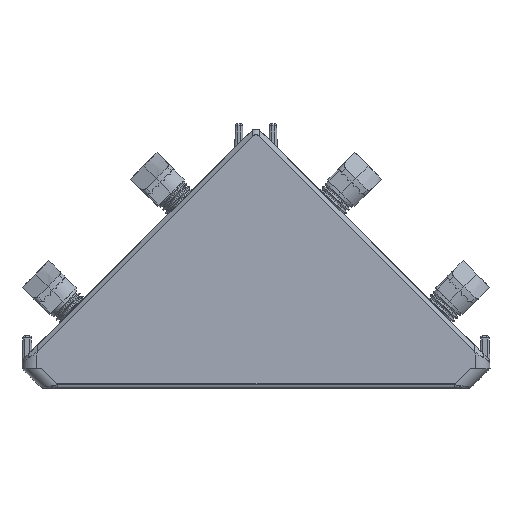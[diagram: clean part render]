
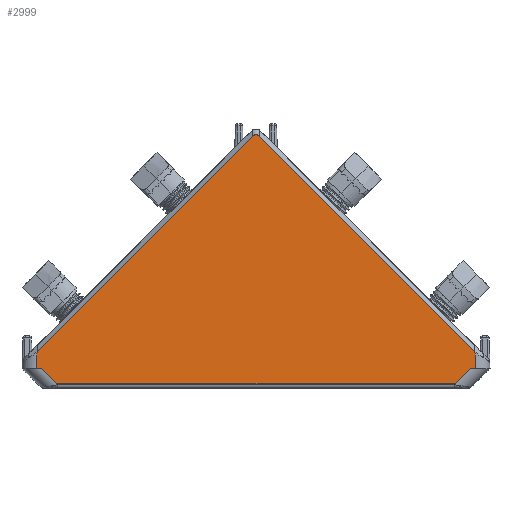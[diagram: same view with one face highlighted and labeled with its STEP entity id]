
A CAD part, left-side view. The second image highlights one B-rep face of the part: STEP entity #2999.
In plain terms, the highlighted planar face has unit normal (-1, 0, 0.004).
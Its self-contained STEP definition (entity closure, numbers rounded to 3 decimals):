
#43 = CARTESIAN_POINT ( 'NONE',  ( 42.262, 346.478, -36.089 ) ) ;
#300 = DIRECTION ( 'NONE',  ( 0.003, 0.707, 0.707 ) ) ;
#325 = EDGE_CURVE ( 'NONE', #32337, #2273, #29130, .T. ) ;
#373 = LINE ( 'NONE', #26555, #21413 ) ;
#419 = CARTESIAN_POINT ( 'NONE',  ( 42.23, 341.966, -39.51 ) ) ;
#1574 = CARTESIAN_POINT ( 'NONE',  ( 42.236, 247.224, -38.21 ) ) ;
#1693 = CARTESIAN_POINT ( 'NONE',  ( 42.245, 346.378, -36.089 ) ) ;
#1989 = VERTEX_POINT ( 'NONE', #34061 ) ;
#2003 = LINE ( 'NONE', #20241, #17779 ) ;
#2273 = VERTEX_POINT ( 'NONE', #419 ) ;
#2332 = CARTESIAN_POINT ( 'NONE',  ( 42.262, 346.379, -32.277 ) ) ;
#2710 = CARTESIAN_POINT ( 'NONE',  ( 42.23, 296.879, -39.51 ) ) ;
#2955 = DIRECTION ( 'NONE',  ( 0., 1., 0. ) ) ;
#2999 = ADVANCED_FACE ( 'NONE', ( #29395 ), #26482, .T. ) ;
#3053 = DIRECTION ( 'NONE',  ( -1., 0., 0.004 ) ) ;
#3126 = CARTESIAN_POINT ( 'NONE',  ( 42.262, 247.38, -32.277 ) ) ;
#3403 = B_SPLINE_CURVE_WITH_KNOTS ( 'NONE', 3,
 ( #12211, #4816, #17539, #1693 ),
 .UNSPECIFIED., .F., .F.,
 ( 4, 4 ),
 ( 0., 1. ),
 .UNSPECIFIED. ) ;
#3641 = CARTESIAN_POINT ( 'NONE',  ( 42.132, 274.335, -62.053 ) ) ;
#3931 = DIRECTION ( 'NONE',  ( -0.004, 0.026, -1. ) ) ;
#4122 = VECTOR ( 'NONE', #3931, 1000. ) ;
#4193 = CARTESIAN_POINT ( 'NONE',  ( 42.132, 319.423, -62.053 ) ) ;
#4480 = CARTESIAN_POINT ( 'NONE',  ( 42.262, 247.28, -36.089 ) ) ;
#4816 = CARTESIAN_POINT ( 'NONE',  ( 42.245, 346.445, -36.089 ) ) ;
#4900 = CARTESIAN_POINT ( 'NONE',  ( 42.476, 297.154, 16.958 ) ) ;
#5125 = VERTEX_POINT ( 'NONE', #23515 ) ;
#5471 = VERTEX_POINT ( 'NONE', #43 ) ;
#5534 = CARTESIAN_POINT ( 'NONE',  ( 42.23, 296.879, -39.51 ) ) ;
#5596 = VERTEX_POINT ( 'NONE', #3126 ) ;
#5716 = VECTOR ( 'NONE', #14395, 1000. ) ;
#6183 = LINE ( 'NONE', #16686, #4122 ) ;
#6260 = ORIENTED_EDGE ( 'NONE', *, *, #31623, .T. ) ;
#6394 = EDGE_CURVE ( 'NONE', #15335, #17257, #9597, .T. ) ;
#7000 = DIRECTION ( 'NONE',  ( -0.004, 0.026, -1. ) ) ;
#7006 = CARTESIAN_POINT ( 'NONE',  ( 42.245, 296.879, -36.089 ) ) ;
#7739 = DIRECTION ( 'NONE',  ( 0., -1., 0. ) ) ;
#8010 = EDGE_CURVE ( 'NONE', #19459, #17980, #10490, .T. ) ;
#8216 = CARTESIAN_POINT ( 'NONE',  ( 42.354, 268.508, -11.14 ) ) ;
#9301 = VERTEX_POINT ( 'NONE', #19965 ) ;
#9597 = LINE ( 'NONE', #7006, #5716 ) ;
#10066 = ORIENTED_EDGE ( 'NONE', *, *, #32835, .T. ) ;
#10410 = CARTESIAN_POINT ( 'NONE',  ( 42.474, 296.129, 16.482 ) ) ;
#10421 = VECTOR ( 'NONE', #24982, 1000. ) ;
#10490 = LINE ( 'NONE', #15978, #24919 ) ;
#11833 = VERTEX_POINT ( 'NONE', #25340 ) ;
#12088 = DIRECTION ( 'NONE',  ( -0.004, -0.026, -1. ) ) ;
#12132 =( BOUNDED_CURVE ( )  B_SPLINE_CURVE ( 3, ( #10410, #26254, #4900, #23331 ),
 .UNSPECIFIED., .F., .F. ) 
 B_SPLINE_CURVE_WITH_KNOTS ( ( 4, 4 ),
 ( 5.76, 6.807 ),
 .UNSPECIFIED. ) 
 CURVE ( )  GEOMETRIC_REPRESENTATION_ITEM ( )  RATIONAL_B_SPLINE_CURVE ( ( 1., 0.911, 0.911, 1. ) ) 
 REPRESENTATION_ITEM ( '' )  );
#12211 = CARTESIAN_POINT ( 'NONE',  ( 42.262, 346.478, -36.089 ) ) ;
#12271 = LINE ( 'NONE', #1574, #24297 ) ;
#13502 = CARTESIAN_POINT ( 'NONE',  ( 42.354, 325.251, -11.14 ) ) ;
#13904 = EDGE_CURVE ( 'NONE', #5471, #19459, #3403, .T. ) ;
#14008 = LINE ( 'NONE', #13502, #29120 ) ;
#14124 = ORIENTED_EDGE ( 'NONE', *, *, #26753, .T. ) ;
#14278 = CARTESIAN_POINT ( 'NONE',  ( 42.256, 247.313, -36.089 ) ) ;
#14395 = DIRECTION ( 'NONE',  ( 0., 1., 0. ) ) ;
#14454 = CARTESIAN_POINT ( 'NONE',  ( 42.25, 247.347, -36.089 ) ) ;
#14629 = CARTESIAN_POINT ( 'NONE',  ( 42.245, 247.38, -36.089 ) ) ;
#15335 = VERTEX_POINT ( 'NONE', #24709 ) ;
#15634 = LINE ( 'NONE', #8216, #23784 ) ;
#15978 = CARTESIAN_POINT ( 'NONE',  ( 42.245, 296.879, -36.089 ) ) ;
#16207 = CARTESIAN_POINT ( 'NONE',  ( 42.245, 248.372, -36.089 ) ) ;
#16686 = CARTESIAN_POINT ( 'NONE',  ( 42.236, 346.534, -38.21 ) ) ;
#17257 = VERTEX_POINT ( 'NONE', #16207 ) ;
#17539 = CARTESIAN_POINT ( 'NONE',  ( 42.245, 346.411, -36.089 ) ) ;
#17779 = VECTOR ( 'NONE', #7000, 1000. ) ;
#17980 = VERTEX_POINT ( 'NONE', #32286 ) ;
#18024 = ORIENTED_EDGE ( 'NONE', *, *, #325, .F. ) ;
#18184 = ORIENTED_EDGE ( 'NONE', *, *, #6394, .F. ) ;
#18883 = EDGE_CURVE ( 'NONE', #30819, #5471, #6183, .T. ) ;
#19459 = VERTEX_POINT ( 'NONE', #21187 ) ;
#19686 = DIRECTION ( 'NONE',  ( 0.003, 0.707, 0.707 ) ) ;
#19794 = ORIENTED_EDGE ( 'NONE', *, *, #32196, .T. ) ;
#19965 = CARTESIAN_POINT ( 'NONE',  ( 42.474, 297.629, 16.482 ) ) ;
#20090 = CARTESIAN_POINT ( 'NONE',  ( 42.262, 247.38, -32.268 ) ) ;
#20241 = CARTESIAN_POINT ( 'NONE',  ( 42.262, 346.379, -32.277 ) ) ;
#20990 = VERTEX_POINT ( 'NONE', #20090 ) ;
#21187 = CARTESIAN_POINT ( 'NONE',  ( 42.245, 346.378, -36.089 ) ) ;
#21385 = ORIENTED_EDGE ( 'NONE', *, *, #18883, .T. ) ;
#21411 = DIRECTION ( 'NONE',  ( -0.003, 0.707, -0.707 ) ) ;
#21413 = VECTOR ( 'NONE', #24481, 1000. ) ;
#23331 = CARTESIAN_POINT ( 'NONE',  ( 42.474, 297.629, 16.482 ) ) ;
#23515 = CARTESIAN_POINT ( 'NONE',  ( 42.262, 346.378, -32.268 ) ) ;
#23784 = VECTOR ( 'NONE', #300, 1000. ) ;
#24297 = VECTOR ( 'NONE', #12088, 1000. ) ;
#24452 = ORIENTED_EDGE ( 'NONE', *, *, #13904, .T. ) ;
#24481 = DIRECTION ( 'NONE',  ( 0.004, 0.026, 1. ) ) ;
#24709 = CARTESIAN_POINT ( 'NONE',  ( 42.245, 247.38, -36.089 ) ) ;
#24919 = VECTOR ( 'NONE', #7739, 1000. ) ;
#24982 = DIRECTION ( 'NONE',  ( 0.003, -0.707, 0.707 ) ) ;
#25002 = ORIENTED_EDGE ( 'NONE', *, *, #32034, .T. ) ;
#25340 = CARTESIAN_POINT ( 'NONE',  ( 42.262, 247.28, -36.089 ) ) ;
#26254 = CARTESIAN_POINT ( 'NONE',  ( 42.476, 296.605, 16.958 ) ) ;
#26482 = PLANE ( 'NONE',  #27604 ) ;
#26555 = CARTESIAN_POINT ( 'NONE',  ( 42.262, 247.38, -32.277 ) ) ;
#26753 = EDGE_CURVE ( 'NONE', #1989, #9301, #12132, .T. ) ;
#27262 = ORIENTED_EDGE ( 'NONE', *, *, #27343, .F. ) ;
#27308 = EDGE_LOOP ( 'NONE', ( #10066, #14124, #6260, #29154, #21385, #24452, #28340, #32671, #18024, #19794, #18184, #27262, #30302, #25002 ) ) ;
#27343 = EDGE_CURVE ( 'NONE', #11833, #15335, #32358, .T. ) ;
#27604 = AXIS2_PLACEMENT_3D ( 'NONE', #2710, #3053, #29062 ) ;
#27788 = LINE ( 'NONE', #4193, #30965 ) ;
#28057 = EDGE_CURVE ( 'NONE', #5596, #11833, #12271, .T. ) ;
#28340 = ORIENTED_EDGE ( 'NONE', *, *, #8010, .T. ) ;
#29062 = DIRECTION ( 'NONE',  ( 0., 1., 0. ) ) ;
#29120 = VECTOR ( 'NONE', #21411, 1000. ) ;
#29130 = LINE ( 'NONE', #5534, #31935 ) ;
#29154 = ORIENTED_EDGE ( 'NONE', *, *, #30719, .T. ) ;
#29395 = FACE_OUTER_BOUND ( 'NONE', #27308, .T. ) ;
#29969 = EDGE_CURVE ( 'NONE', #2273, #17980, #27788, .T. ) ;
#30302 = ORIENTED_EDGE ( 'NONE', *, *, #28057, .F. ) ;
#30719 = EDGE_CURVE ( 'NONE', #5125, #30819, #2003, .T. ) ;
#30819 = VERTEX_POINT ( 'NONE', #2332 ) ;
#30965 = VECTOR ( 'NONE', #19686, 1000. ) ;
#31623 = EDGE_CURVE ( 'NONE', #9301, #5125, #14008, .T. ) ;
#31935 = VECTOR ( 'NONE', #2955, 1000. ) ;
#32034 = EDGE_CURVE ( 'NONE', #5596, #20990, #373, .T. ) ;
#32196 = EDGE_CURVE ( 'NONE', #32337, #17257, #32911, .T. ) ;
#32286 = CARTESIAN_POINT ( 'NONE',  ( 42.245, 345.386, -36.089 ) ) ;
#32337 = VERTEX_POINT ( 'NONE', #33424 ) ;
#32358 = B_SPLINE_CURVE_WITH_KNOTS ( 'NONE', 3,
 ( #4480, #14278, #14454, #14629 ),
 .UNSPECIFIED., .F., .F.,
 ( 4, 4 ),
 ( 0., 1. ),
 .UNSPECIFIED. ) ;
#32671 = ORIENTED_EDGE ( 'NONE', *, *, #29969, .F. ) ;
#32835 = EDGE_CURVE ( 'NONE', #20990, #1989, #15634, .T. ) ;
#32911 = LINE ( 'NONE', #3641, #10421 ) ;
#33424 = CARTESIAN_POINT ( 'NONE',  ( 42.23, 251.792, -39.51 ) ) ;
#34061 = CARTESIAN_POINT ( 'NONE',  ( 42.474, 296.129, 16.482 ) ) ;
